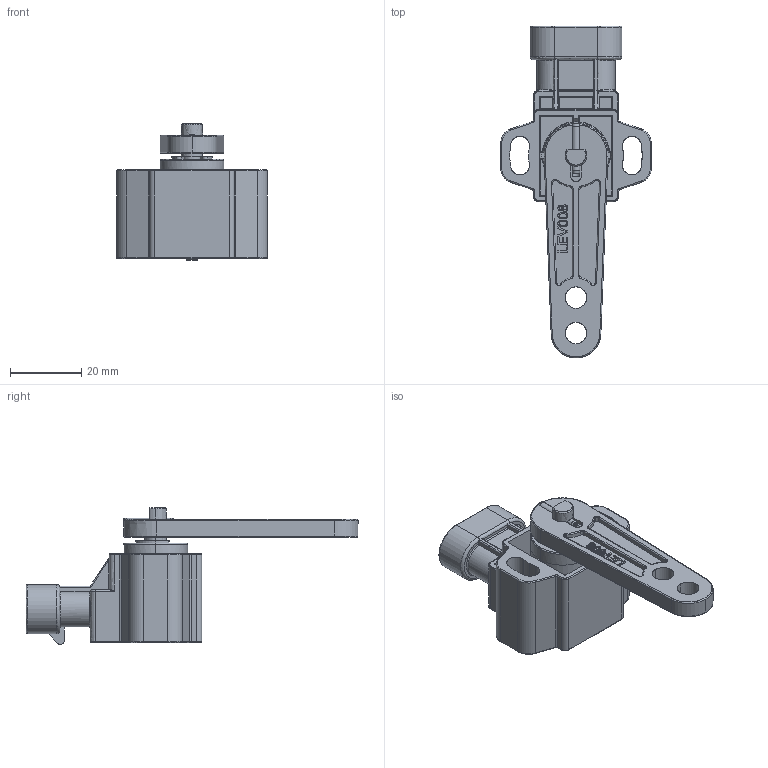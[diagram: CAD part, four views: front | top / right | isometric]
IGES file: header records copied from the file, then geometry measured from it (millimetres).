
Start section: SolidWorks IGES file using analytic representation for surfaces
Global section: file name: \\srv4gefran\dir-cat\Disegni Catalogo\Mobile\GR3P\GR3P 32\3D\Solidworks 2024\GR3PA S3E2MS xxx xxxx B0.IGS; native system: SolidWorks 2024; preprocessor: SolidWorks 2024; author: Loda-w1; date: 241219.151800; units: millimetre
Bounding box: 42.5 x 93.5 x 38.47 mm (x, y, z)
Surface area: 15360.9 mm2 (no closed solid volume)
Topology: 0 solids, 0 shells, 723 faces, 6787 edges, 6760 vertices
Faces by surface type: bspline 403, revolution 320
